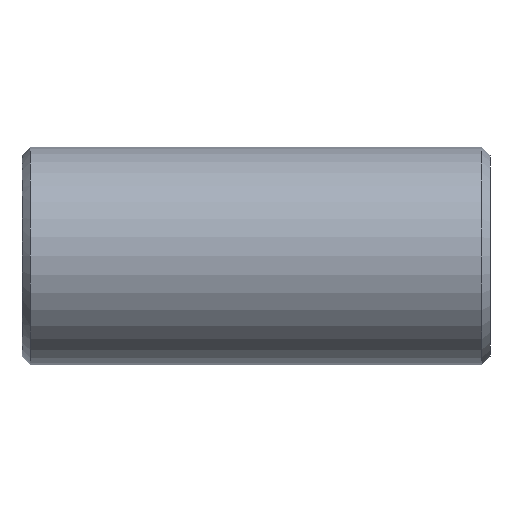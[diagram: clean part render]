
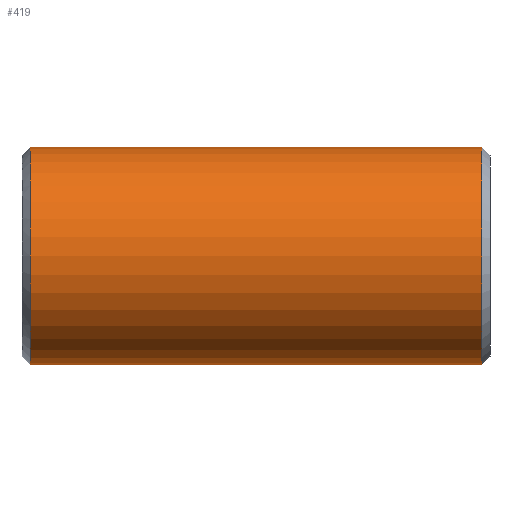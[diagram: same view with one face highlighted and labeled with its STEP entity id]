
A CAD part, front view. The second image highlights one B-rep face of the part: STEP entity #419.
In plain terms, the highlighted cylindrical face has radius 13 mm (diameter 26 mm), a partial arc.
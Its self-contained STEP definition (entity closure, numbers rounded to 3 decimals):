
#231=CARTESIAN_POINT('Vertex',(1.,0.,-13.)) ;
#238=CARTESIAN_POINT('Vertex',(1.,0.,13.)) ;
#267=CARTESIAN_POINT('Axis2P3D Location',(1.,0.,0.)) ;
#271=CARTESIAN_POINT('Vertex',(1.,-13.,0.)) ;
#274=CARTESIAN_POINT('Axis2P3D Location',(1.,0.,0.)) ;
#359=CARTESIAN_POINT('Line Origine',(56.,0.,13.)) ;
#363=CARTESIAN_POINT('Vertex',(55.,0.,13.)) ;
#377=CARTESIAN_POINT('Vertex',(55.,0.,-13.)) ;
#380=CARTESIAN_POINT('Line Origine',(56.,0.,-13.)) ;
#394=CARTESIAN_POINT('Axis2P3D Location',(56.,0.,0.)) ;
#399=CARTESIAN_POINT('Axis2P3D Location',(55.,0.,0.)) ;
#403=CARTESIAN_POINT('Vertex',(55.,-13.,0.)) ;
#406=CARTESIAN_POINT('Axis2P3D Location',(55.,0.,0.)) ;
#268=DIRECTION('Axis2P3D Direction',(1.,0.,-0.)) ;
#275=DIRECTION('Axis2P3D Direction',(1.,0.,-0.)) ;
#360=DIRECTION('Vector Direction',(-1.,0.,0.)) ;
#381=DIRECTION('Vector Direction',(-1.,0.,0.)) ;
#395=DIRECTION('Axis2P3D Direction',(-1.,-0.,-0.)) ;
#396=DIRECTION('Axis2P3D XDirection',(0.,0.,-1.)) ;
#400=DIRECTION('Axis2P3D Direction',(-1.,-0.,-0.)) ;
#407=DIRECTION('Axis2P3D Direction',(-1.,-0.,-0.)) ;
#269=AXIS2_PLACEMENT_3D('Circle Axis2P3D',#267,#268,$) ;
#276=AXIS2_PLACEMENT_3D('Circle Axis2P3D',#274,#275,$) ;
#397=AXIS2_PLACEMENT_3D('Cylinder Axis2P3D',#394,#395,#396) ;
#401=AXIS2_PLACEMENT_3D('Circle Axis2P3D',#399,#400,$) ;
#408=AXIS2_PLACEMENT_3D('Circle Axis2P3D',#406,#407,$) ;
#412=ORIENTED_EDGE('',*,*,#384,.T.) ;
#413=ORIENTED_EDGE('',*,*,#405,.F.) ;
#414=ORIENTED_EDGE('',*,*,#410,.F.) ;
#415=ORIENTED_EDGE('',*,*,#365,.T.) ;
#416=ORIENTED_EDGE('',*,*,#278,.T.) ;
#417=ORIENTED_EDGE('',*,*,#273,.T.) ;
#361=VECTOR('Line Direction',#360,1.) ;
#382=VECTOR('Line Direction',#381,1.) ;
#419=ADVANCED_FACE('352-18X56',(#418),#398,.T.) ;
#270=CIRCLE('generated circle',#269,13.) ;
#277=CIRCLE('generated circle',#276,13.) ;
#402=CIRCLE('generated circle',#401,13.) ;
#409=CIRCLE('generated circle',#408,13.) ;
#398=CYLINDRICAL_SURFACE('generated cylinder',#397,13.) ;
#273=EDGE_CURVE('',#272,#232,#270,.T.) ;
#278=EDGE_CURVE('',#239,#272,#277,.T.) ;
#365=EDGE_CURVE('',#364,#239,#362,.T.) ;
#384=EDGE_CURVE('',#232,#378,#383,.F.) ;
#405=EDGE_CURVE('',#404,#378,#402,.F.) ;
#410=EDGE_CURVE('',#364,#404,#409,.F.) ;
#411=EDGE_LOOP('',(#412,#413,#414,#415,#416,#417)) ;
#418=FACE_OUTER_BOUND('',#411,.T.) ;
#362=LINE('Line',#359,#361) ;
#383=LINE('Line',#380,#382) ;
#232=VERTEX_POINT('',#231) ;
#239=VERTEX_POINT('',#238) ;
#272=VERTEX_POINT('',#271) ;
#364=VERTEX_POINT('',#363) ;
#378=VERTEX_POINT('',#377) ;
#404=VERTEX_POINT('',#403) ;
